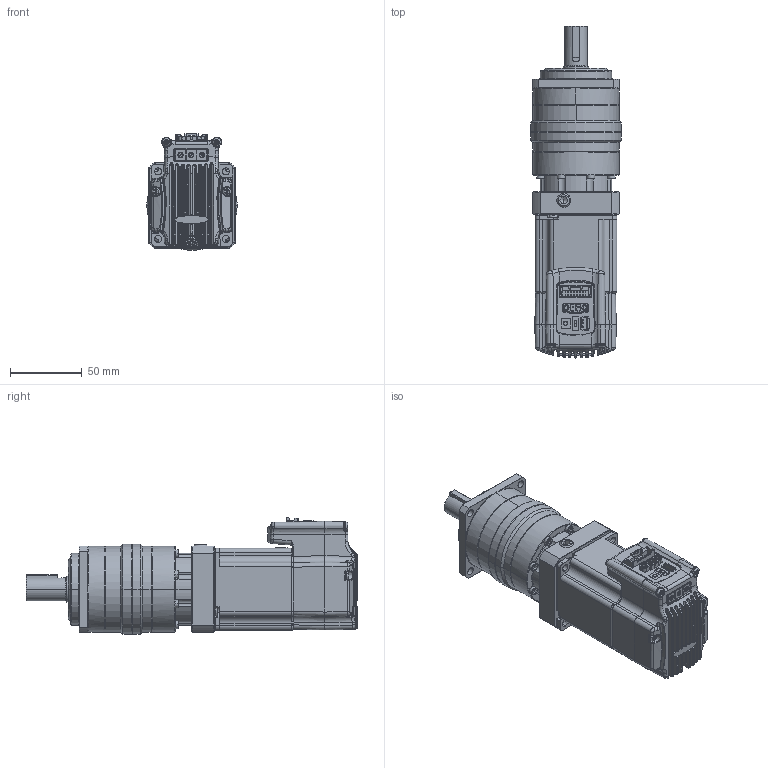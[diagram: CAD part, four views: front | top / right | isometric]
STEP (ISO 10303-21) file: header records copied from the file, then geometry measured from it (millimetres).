
FILE_DESCRIPTION (( 'STEP AP203' ), '1' );
FILE_NAME ('130416 Ezi-SERVO PG-BT-56M-PN15~50.STEP', '2013-04-17T01:16:47', ( '' ), ( '' ), 'SwSTEP 2.0', 'SolidWorks 2012', '' );
FILE_SCHEMA (( 'CONFIG_CONTROL_DESIGN' ));
Products named in the file (44): 130416 Ezi-SERVO PG-BT-56M-PN15~50; ST56 2ST; 42; 41; 40; 39; 38_4; 37_8; 36_8; 35_8; 34_8; 33_8; 32_8; 31_8; 30_8; 29_8; 28_8; 27_8; 26_8; 25_8; 24_8; 23_8; 22_8; 21_8; 20_8; 19_8; 18_8; 17_8; 16_8; 15_8; 14_8; 13_8; 12_8; 11_8; 10_8; 9_8; 8_8; 7_8; 6_8; 5_8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
Assembly tree (43 placements, depth 2):
  130416 Ezi-SERVO PG-BT-56M-PN15~50
    1_8
    2_8
    3_8
    4_8
    5_8
    6_8
    7_8
    8_8
    9_8
    10_8
    11_8
    12_8
    13_8
    14_8
    15_8
    16_8
    17_8
    18_8
    19_8
    20_8
    21_8
    22_8
    23_8
    24_8
    25_8
    26_8
    27_8
    28_8
    29_8
    30_8
    31_8
    32_8
    33_8
    34_8
    35_8
    36_8
    37_8
    38_4
    39
    40
    41
    42
    ST56 2ST
Bounding box: 63 x 231.21 x 81.43 mm (x, y, z)
Volume: 503489 mm3; surface area: 126599.6 mm2
Topology: 39 solids, 45 shells, 3671 faces, 9216 edges, 5645 vertices
Faces by surface type: plane 1602, cylinder 1142, bspline 669, cone 204, torus 54
Entity records: 171963 total; most frequent: CARTESIAN_POINT 88229, ORIENTED_EDGE 18146, DIRECTION 13431, EDGE_CURVE 9101, VERTEX_POINT 5645, AXIS2_PLACEMENT_3D 4514, VECTOR 4403, LINE 4403
